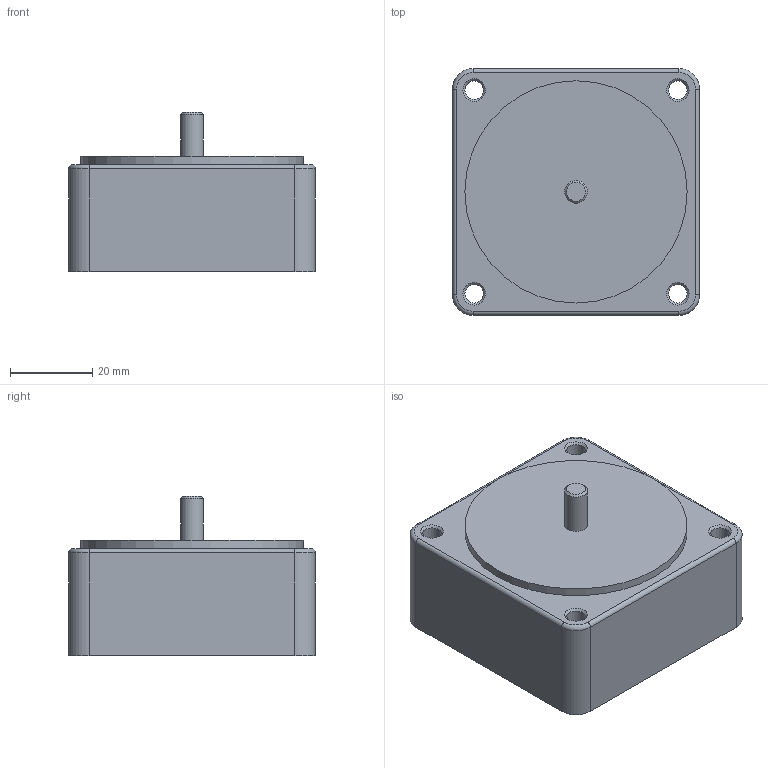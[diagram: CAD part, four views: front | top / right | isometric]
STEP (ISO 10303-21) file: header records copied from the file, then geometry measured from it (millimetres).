
FILE_DESCRIPTION((''),'2;1');
FILE_NAME('D:\작업\흐힠~\3D 모델링\S6GX10B.stp','2013-11-27T15:58:50',('jy-jung'),(''),'Autodesk Inventor 2011','Autodesk Inventor 2011','');
FILE_SCHEMA(('AUTOMOTIVE_DESIGN { 1 0 10303 214 1 1 1 1 }'));
Length unit declared in the file: millimetre
Products named in the file (1): 부품68
Bounding box: 60 x 60 x 38.7 mm (x, y, z)
Volume: 86547.4 mm3; surface area: 15865.4 mm2
Topology: 1 solids, 1 shells, 35 faces, 74 edges, 45 vertices
Faces by surface type: cylinder 16, plane 10, cone 5, torus 4
Full cylindrical faces by diameter (mm): 4.5 x4, 5.57 x1, 7 x1, 54 x2
Entity records: 922 total; most frequent: DIRECTION 174, CARTESIAN_POINT 142, ORIENTED_EDGE 122, AXIS2_PLACEMENT_3D 77, EDGE_CURVE 61, EDGE_LOOP 60, VERTEX_POINT 45, CIRCLE 41
